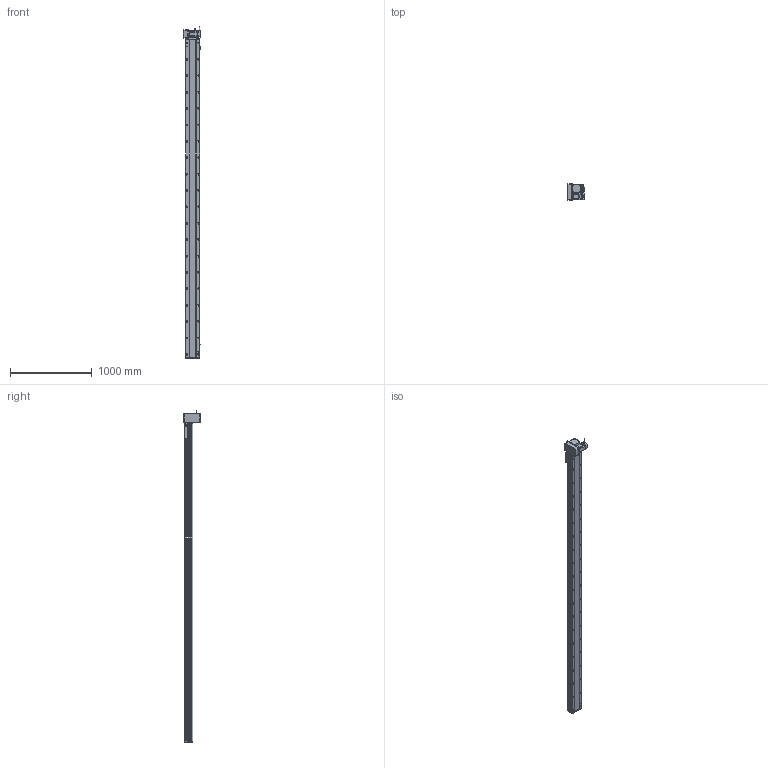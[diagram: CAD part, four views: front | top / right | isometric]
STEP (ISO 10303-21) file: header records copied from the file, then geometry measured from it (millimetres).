
FILE_DESCRIPTION (( 'STEP AP214' ), '1' );
FILE_NAME ('RTB17S-XX-3600-LM-M75-C4.STEP', '2025-12-12T00:53:17', ( '' ), ( '' ), 'SwSTEP 2.0', 'SolidWorks 2018', '' );
FILE_SCHEMA (( 'AUTOMOTIVE_DESIGN' ));
Length unit declared in the file: millimetre
Products named in the file (15): RTH13-BL-012覜茼え俋离^RTB17S-賑釱_RTB17S-XX-XX-LM-M75-C4; RTB17S-L-004-賑釱^RTB17S-賑釱_RTB17S-XX-XX-LM-M75-C4; RTB22S-GY-008-M75--萇儂啣^RTB17S-LM-々湍釱蚾饜-750W_RTB17S-XX-XX-LM-M75-C4; 750W萇儂^RTB17S-XX-XX-LM-M75-C4; RTB17S-XX-3600-LM-M75-C4; RTB22S-GY-017P^RTB17S-LM-々湍釱蚾饜-750W_RTB17S-XX-XX-LM-M75-C4; RTB17S-L-007奻裔^RTB17S-XX-XX-LM-M75-C4; RTB17S-L-014-T20-P75--々湍釱^RTB17S-LM-々湍釱蚾饜-750W_RTB17S-XX-XX-LM-M75-C4; RTB17S-L-001-耜醱啣^RTB17S-XX-XX-LM-M75-C4; RTB17-R-011菁釱^RTB17S-XX-XX-LM-M75-C4; EE672^RTB17S-XX-XX-LM-M75-C4; RTB22S-GY-005P^RTB17S-LM-々湍釱蚾饜-750W_RTB17S-XX-XX-LM-M75-C4; RTB17S-LM-々湍釱蚾饜-750W^RTB17S-XX-XX-LM-M75-C4; RTB22S-GY-018P^RTB17S-LM-々湍釱蚾饜-750W_RTB17S-XX-XX-LM-M75-C4; RTB17S-賑釱^RTB17S-XX-XX-LM-M75-C4
Assembly tree (17 placements, depth 3):
  RTB17S-XX-3600-LM-M75-C4
    RTB17-R-011菁釱^RTB17S-XX-XX-LM-M75-C4
    EE672^RTB17S-XX-XX-LM-M75-C4  x3
    RTB17S-L-001-耜醱啣^RTB17S-XX-XX-LM-M75-C4
    RTB17S-賑釱^RTB17S-XX-XX-LM-M75-C4
      RTB17S-L-004-賑釱^RTB17S-賑釱_RTB17S-XX-XX-LM-M75-C4
      RTH13-BL-012覜茼え俋离^RTB17S-賑釱_RTB17S-XX-XX-LM-M75-C4
    RTB17S-L-007奻裔^RTB17S-XX-XX-LM-M75-C4
    750W萇儂^RTB17S-XX-XX-LM-M75-C4
    RTB17S-LM-々湍釱蚾饜-750W^RTB17S-XX-XX-LM-M75-C4
      RTB17S-L-014-T20-P75--々湍釱^RTB17S-LM-々湍釱蚾饜-750W_RTB17S-XX-XX-LM-M75-C4
      RTB22S-GY-005P^RTB17S-LM-々湍釱蚾饜-750W_RTB17S-XX-XX-LM-M75-C4
      RTB22S-GY-017P^RTB17S-LM-々湍釱蚾饜-750W_RTB17S-XX-XX-LM-M75-C4  x2
      RTB22S-GY-008-M75--萇儂啣^RTB17S-LM-々湍釱蚾饜-750W_RTB17S-XX-XX-LM-M75-C4
      RTB22S-GY-018P^RTB17S-LM-々湍釱蚾饜-750W_RTB17S-XX-XX-LM-M75-C4
Bounding box: 210.4 x 200 x 4052.2 mm (x, y, z)
Volume: 28456773.2 mm3; surface area: 5263675.7 mm2
Topology: 17 solids, 17 shells, 2297 faces, 6484 edges, 4202 vertices
Faces by surface type: plane 996, cylinder 885, bspline 294, cone 110, sphere 8, torus 4
Entity records: 68086 total; most frequent: CARTESIAN_POINT 20348, ORIENTED_EDGE 9812, DIRECTION 9032, EDGE_CURVE 4906, AXIS2_PLACEMENT_3D 3222, VERTEX_POINT 3206, VECTOR 2588, LINE 2588
